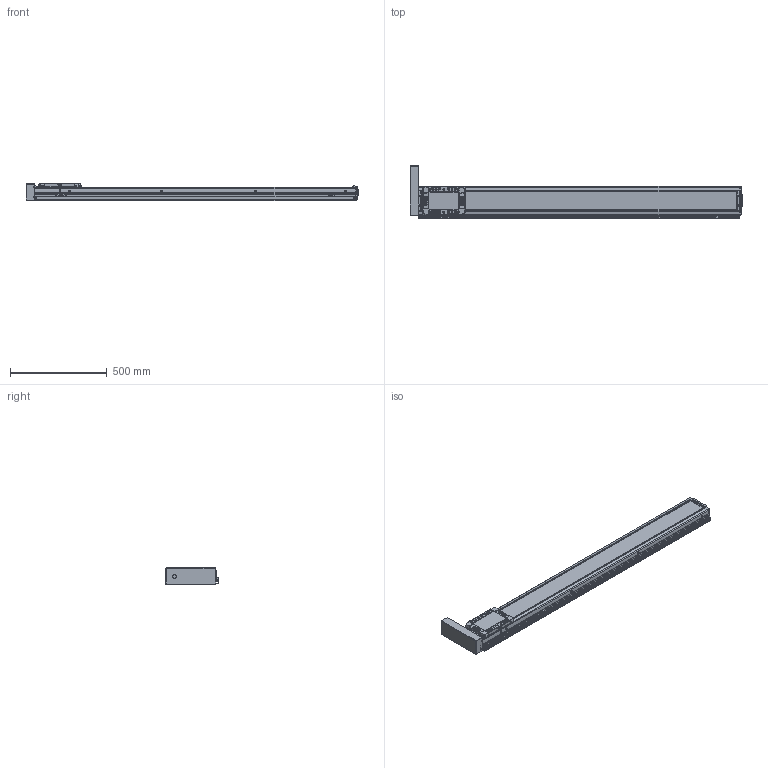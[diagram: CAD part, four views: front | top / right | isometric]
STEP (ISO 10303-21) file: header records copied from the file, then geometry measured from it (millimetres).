
FILE_DESCRIPTION(('STEP AP214'),'1');
FILE_NAME('Z:/Web/3D/SAN150/2013.04 (STP.)/SAN150ㅁㅁ-1400PL+3SR.stp','2013-05-07T08:34:54',(' '),(' '),'Spatial InterOp 3D',' ',' ');
FILE_SCHEMA(('automotive_design'));
Length unit declared in the file: millimetre
Products named in the file (62): M3.0 x 6.0; SRL-16x17-360L; SGD-SAN150; EE-SX674; SBK-SX674-352; 스크루 : Round - M3.0 x 6.0; BHCS M4.0 x 10.0; BHCS M3.0 x 6.0; P; SLBL-SAN150; SLCV-SAN150; FHCS M4.0 x 8.0; SFX-SAN150; RRCV-SAN150; FRBL-SAN150; Spacer; RN15; FRCV-SAN150; Screw 20; BASE-SAN150-000L ; SUS COVER; 스크루 : Round - M5.0 x 6.0
Bounding box: 1720 x 273.36 x 90 mm (x, y, z)
Volume: 9749783 mm3; surface area: 1861530.2 mm2
Topology: 62 solids, 62 shells, 2908 faces, 7472 edges, 4777 vertices
Faces by surface type: plane 1454, cylinder 979, cone 354, sphere 88, bspline 21, torus 12
Entity records: 115586 total; most frequent: CARTESIAN_POINT 18897, DIRECTION 15852, ORIENTED_EDGE 14640, EDGE_CURVE 7320, AXIS2_PLACEMENT_3D 5711, VERTEX_POINT 4777, LINE 4430, VECTOR 4430
